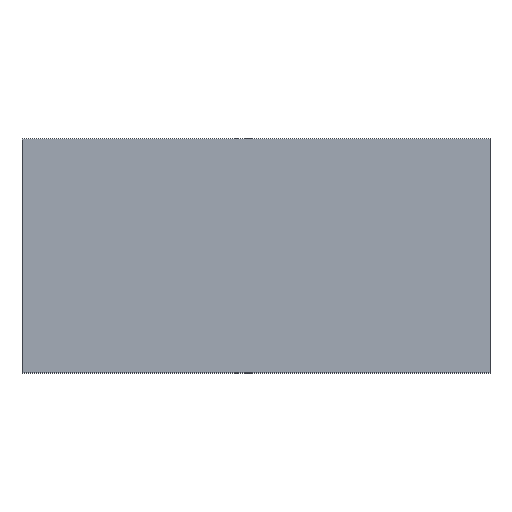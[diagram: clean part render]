
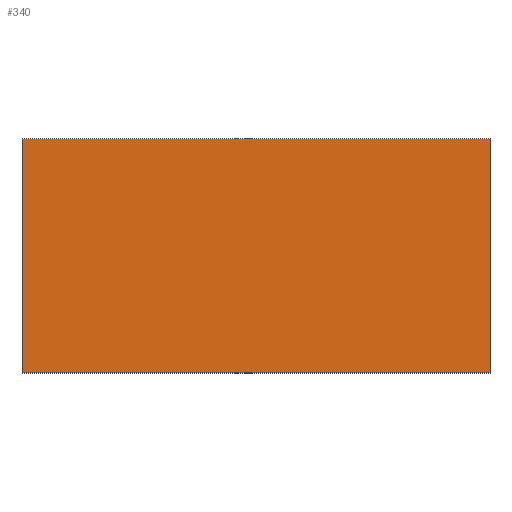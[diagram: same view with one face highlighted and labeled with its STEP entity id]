
A CAD part, top view. The second image highlights one B-rep face of the part: STEP entity #340.
In plain terms, the highlighted planar face has unit normal (0, 0, 1).
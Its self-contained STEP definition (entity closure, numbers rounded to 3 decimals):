
#340=ADVANCED_FACE('',(#534),#2710,.T.);
#534=FACE_OUTER_BOUND('',#728,.T.);
#728=EDGE_LOOP('',(#1573,#1574,#1575,#1576));
#1573=ORIENTED_EDGE('',*,*,#1991,.T.);
#1574=ORIENTED_EDGE('',*,*,#1995,.T.);
#1575=ORIENTED_EDGE('',*,*,#1998,.T.);
#1576=ORIENTED_EDGE('',*,*,#2000,.T.);
#1991=EDGE_CURVE('',#2674,#2673,#2081,.T.);
#1995=EDGE_CURVE('',#2673,#2676,#2085,.T.);
#1998=EDGE_CURVE('',#2676,#2678,#2088,.T.);
#2000=EDGE_CURVE('',#2678,#2674,#2090,.T.);
#2081=B_SPLINE_CURVE_WITH_KNOTS('',1,(#15376,#15377),.UNSPECIFIED.,.F.,
 .F.,(2,2),(0.,2000.),.UNSPECIFIED.);
#2085=B_SPLINE_CURVE_WITH_KNOTS('',1,(#15384,#15385),.UNSPECIFIED.,.F.,
 .F.,(2,2),(2000.,3000.),.UNSPECIFIED.);
#2088=B_SPLINE_CURVE_WITH_KNOTS('',1,(#15390,#15391),.UNSPECIFIED.,.F.,
 .F.,(2,2),(3000.,5000.),.UNSPECIFIED.);
#2090=B_SPLINE_CURVE_WITH_KNOTS('',1,(#15394,#15395),.UNSPECIFIED.,.F.,
 .F.,(2,2),(5000.,6000.),.UNSPECIFIED.);
#2673=VERTEX_POINT('',#15366);
#2674=VERTEX_POINT('',#15367);
#2676=VERTEX_POINT('',#15369);
#2678=VERTEX_POINT('',#15371);
#2710=PLANE('',#2924);
#2924=AXIS2_PLACEMENT_3D('',#15363,#2960,$);
#2960=DIRECTION('',(0.,0.,1.));
#15363=CARTESIAN_POINT('',(13767.573,26938.305,774.));
#15366=CARTESIAN_POINT('',(15767.573,26938.305,774.));
#15367=CARTESIAN_POINT('',(13767.573,26938.305,774.));
#15369=CARTESIAN_POINT('',(15767.573,27938.305,774.));
#15371=CARTESIAN_POINT('',(13767.573,27938.305,774.));
#15376=CARTESIAN_POINT('',(13767.573,26938.305,774.));
#15377=CARTESIAN_POINT('',(15767.573,26938.305,774.));
#15384=CARTESIAN_POINT('',(15767.573,26938.305,774.));
#15385=CARTESIAN_POINT('',(15767.573,27938.305,774.));
#15390=CARTESIAN_POINT('',(15767.573,27938.305,774.));
#15391=CARTESIAN_POINT('',(13767.573,27938.305,774.));
#15394=CARTESIAN_POINT('',(13767.573,27938.305,774.));
#15395=CARTESIAN_POINT('',(13767.573,26938.305,774.));
